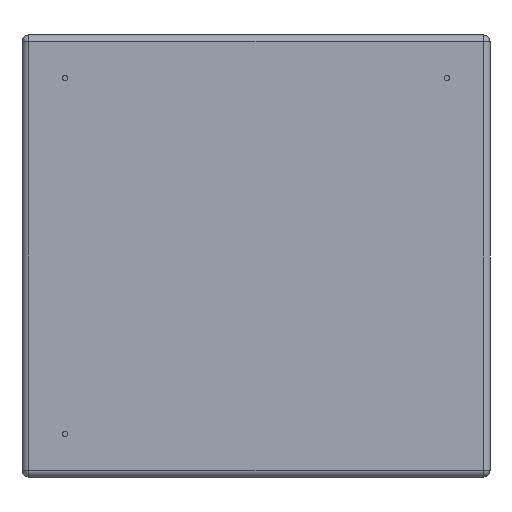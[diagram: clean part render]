
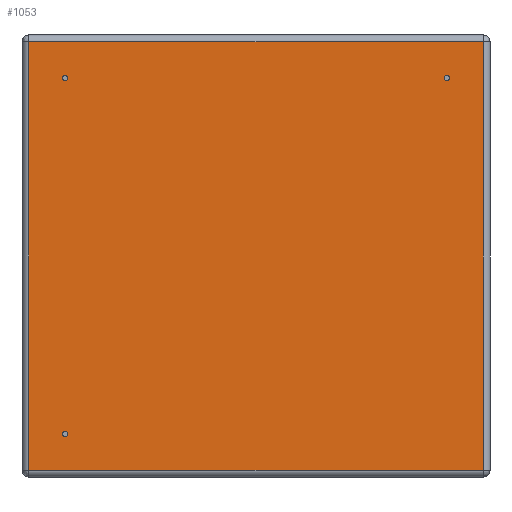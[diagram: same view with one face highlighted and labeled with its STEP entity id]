
A CAD part, left-side view. The second image highlights one B-rep face of the part: STEP entity #1053.
In plain terms, the highlighted free-form (B-spline) face has degree [2, 1] with [3, 2] control points.
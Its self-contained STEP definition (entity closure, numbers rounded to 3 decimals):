
#16=FACE_BOUND('',#1395,.T.);
#17=FACE_BOUND('',#1396,.T.);
#18=FACE_BOUND('',#1397,.T.);
#71=(
BOUNDED_SURFACE()
B_SPLINE_SURFACE(2,1,((#5923,#5924),(#5925,#5926),(#5927,#5928)),
 .UNSPECIFIED.,.F.,.F.,.F.)
B_SPLINE_SURFACE_WITH_KNOTS((3,3),(2,2),(-808.199,-410.899),
(0.,434.),.UNSPECIFIED.)
GEOMETRIC_REPRESENTATION_ITEM()
RATIONAL_B_SPLINE_SURFACE(((1.,1.),(1.,1.),(1.,1.)))
REPRESENTATION_ITEM('')
SURFACE()
);
#312=(
BOUNDED_CURVE()
B_SPLINE_CURVE(1,(#5936,#5937),.UNSPECIFIED.,.F.,.F.)
B_SPLINE_CURVE_WITH_KNOTS((2,2),(6.3,427.7),
 .UNSPECIFIED.)
CURVE()
GEOMETRIC_REPRESENTATION_ITEM()
RATIONAL_B_SPLINE_CURVE((1.,1.))
REPRESENTATION_ITEM('')
);
#313=(
BOUNDED_CURVE()
B_SPLINE_CURVE(1,(#5938,#5939),.UNSPECIFIED.,.F.,.F.)
B_SPLINE_CURVE_WITH_KNOTS((2,2),(6.3,427.7),.UNSPECIFIED.)
CURVE()
GEOMETRIC_REPRESENTATION_ITEM()
RATIONAL_B_SPLINE_CURVE((1.,1.))
REPRESENTATION_ITEM('')
);
#314=(
BOUNDED_CURVE()
B_SPLINE_CURVE(1,(#5940,#5941),.UNSPECIFIED.,.F.,.F.)
B_SPLINE_CURVE_WITH_KNOTS((2,2),(0.,397.3),
 .UNSPECIFIED.)
CURVE()
GEOMETRIC_REPRESENTATION_ITEM()
RATIONAL_B_SPLINE_CURVE((1.,1.))
REPRESENTATION_ITEM('')
);
#315=(
BOUNDED_CURVE()
B_SPLINE_CURVE(1,(#5942,#5943),.UNSPECIFIED.,.F.,.F.)
B_SPLINE_CURVE_WITH_KNOTS((2,2),(0.,397.3),
 .UNSPECIFIED.)
CURVE()
GEOMETRIC_REPRESENTATION_ITEM()
RATIONAL_B_SPLINE_CURVE((1.,1.))
REPRESENTATION_ITEM('')
);
#316=(
BOUNDED_CURVE()
B_SPLINE_CURVE(2,(#5944,#5945,#5946,#5947,#5948,#5949,#5950,#5951,#5952),
 .UNSPECIFIED.,.T.,.F.)
B_SPLINE_CURVE_WITH_KNOTS((3,2,2,2,3),(0.,3.927,7.854,
11.781,15.708),.UNSPECIFIED.)
CURVE()
GEOMETRIC_REPRESENTATION_ITEM()
RATIONAL_B_SPLINE_CURVE((1.,0.707,1.,0.707,1.,0.707,
1.,0.707,1.))
REPRESENTATION_ITEM('')
);
#317=(
BOUNDED_CURVE()
B_SPLINE_CURVE(2,(#5953,#5954,#5955,#5956,#5957,#5958,#5959,#5960,#5961),
 .UNSPECIFIED.,.T.,.F.)
B_SPLINE_CURVE_WITH_KNOTS((3,2,2,2,3),(0.,3.927,7.854,
11.781,15.708),.UNSPECIFIED.)
CURVE()
GEOMETRIC_REPRESENTATION_ITEM()
RATIONAL_B_SPLINE_CURVE((1.,0.707,1.,0.707,1.,0.707,
1.,0.707,1.))
REPRESENTATION_ITEM('')
);
#318=(
BOUNDED_CURVE()
B_SPLINE_CURVE(2,(#5962,#5963,#5964,#5965,#5966,#5967,#5968,#5969,#5970),
 .UNSPECIFIED.,.T.,.F.)
B_SPLINE_CURVE_WITH_KNOTS((3,2,2,2,3),(0.,3.927,7.854,
11.781,15.708),.UNSPECIFIED.)
CURVE()
GEOMETRIC_REPRESENTATION_ITEM()
RATIONAL_B_SPLINE_CURVE((1.,0.707,1.,0.707,1.,0.707,
1.,0.707,1.))
REPRESENTATION_ITEM('')
);
#1053=ADVANCED_FACE('',(#1221,#16,#17,#18),#71,.T.);
#1221=FACE_OUTER_BOUND('',#1394,.T.);
#1394=EDGE_LOOP('',(#1754,#1755,#1756,#1757));
#1395=EDGE_LOOP('',(#1758));
#1396=EDGE_LOOP('',(#1759));
#1397=EDGE_LOOP('',(#1760));
#1754=ORIENTED_EDGE('',*,*,#2545,.F.);
#1755=ORIENTED_EDGE('',*,*,#2547,.T.);
#1756=ORIENTED_EDGE('',*,*,#2546,.T.);
#1757=ORIENTED_EDGE('',*,*,#2548,.F.);
#1758=ORIENTED_EDGE('',*,*,#2549,.T.);
#1759=ORIENTED_EDGE('',*,*,#2550,.T.);
#1760=ORIENTED_EDGE('',*,*,#2551,.T.);
#2545=EDGE_CURVE('',#3723,#3725,#312,.T.);
#2546=EDGE_CURVE('',#3724,#3726,#313,.T.);
#2547=EDGE_CURVE('',#3723,#3724,#314,.T.);
#2548=EDGE_CURVE('',#3725,#3726,#315,.T.);
#2549=EDGE_CURVE('',#3727,#3727,#316,.T.);
#2550=EDGE_CURVE('',#3728,#3728,#317,.T.);
#2551=EDGE_CURVE('',#3729,#3729,#318,.T.);
#3723=VERTEX_POINT('',#5929);
#3724=VERTEX_POINT('',#5930);
#3725=VERTEX_POINT('',#5931);
#3726=VERTEX_POINT('',#5932);
#3727=VERTEX_POINT('',#5933);
#3728=VERTEX_POINT('',#5934);
#3729=VERTEX_POINT('',#5935);
#5923=CARTESIAN_POINT('',(-262.5,-216.999,-198.65));
#5924=CARTESIAN_POINT('',(-262.5,217.001,-198.65));
#5925=CARTESIAN_POINT('',(-262.5,-216.999,0.));
#5926=CARTESIAN_POINT('',(-262.5,217.001,0.));
#5927=CARTESIAN_POINT('',(-262.5,-216.999,198.65));
#5928=CARTESIAN_POINT('',(-262.5,217.001,198.65));
#5929=CARTESIAN_POINT('',(-262.5,-210.699,-198.65));
#5930=CARTESIAN_POINT('',(-262.5,-210.699,198.65));
#5931=CARTESIAN_POINT('',(-262.5,210.701,-198.65));
#5932=CARTESIAN_POINT('',(-262.5,210.701,198.65));
#5933=CARTESIAN_POINT('',(-262.5,-174.497,164.997));
#5934=CARTESIAN_POINT('',(-262.5,179.503,164.997));
#5935=CARTESIAN_POINT('',(-262.5,179.503,-164.997));
#5936=CARTESIAN_POINT('',(-262.5,-210.699,-198.65));
#5937=CARTESIAN_POINT('',(-262.5,210.701,-198.65));
#5938=CARTESIAN_POINT('',(-262.5,-210.699,198.65));
#5939=CARTESIAN_POINT('',(-262.5,210.701,198.65));
#5940=CARTESIAN_POINT('',(-262.5,-210.699,-198.65));
#5941=CARTESIAN_POINT('',(-262.5,-210.699,198.65));
#5942=CARTESIAN_POINT('',(-262.5,210.701,-198.65));
#5943=CARTESIAN_POINT('',(-262.5,210.701,198.65));
#5944=CARTESIAN_POINT('',(-262.5,-174.497,164.997));
#5945=CARTESIAN_POINT('',(-262.5,-174.497,167.497));
#5946=CARTESIAN_POINT('',(-262.5,-176.997,167.497));
#5947=CARTESIAN_POINT('',(-262.5,-179.497,167.497));
#5948=CARTESIAN_POINT('',(-262.5,-179.497,164.997));
#5949=CARTESIAN_POINT('',(-262.5,-179.497,162.497));
#5950=CARTESIAN_POINT('',(-262.5,-176.997,162.497));
#5951=CARTESIAN_POINT('',(-262.5,-174.497,162.497));
#5952=CARTESIAN_POINT('',(-262.5,-174.497,164.997));
#5953=CARTESIAN_POINT('',(-262.5,179.503,164.997));
#5954=CARTESIAN_POINT('',(-262.5,179.503,167.497));
#5955=CARTESIAN_POINT('',(-262.5,177.003,167.497));
#5956=CARTESIAN_POINT('',(-262.5,174.503,167.497));
#5957=CARTESIAN_POINT('',(-262.5,174.503,164.997));
#5958=CARTESIAN_POINT('',(-262.5,174.503,162.497));
#5959=CARTESIAN_POINT('',(-262.5,177.003,162.497));
#5960=CARTESIAN_POINT('',(-262.5,179.503,162.497));
#5961=CARTESIAN_POINT('',(-262.5,179.503,164.997));
#5962=CARTESIAN_POINT('',(-262.5,179.503,-164.997));
#5963=CARTESIAN_POINT('',(-262.5,179.503,-162.497));
#5964=CARTESIAN_POINT('',(-262.5,177.003,-162.497));
#5965=CARTESIAN_POINT('',(-262.5,174.503,-162.497));
#5966=CARTESIAN_POINT('',(-262.5,174.503,-164.997));
#5967=CARTESIAN_POINT('',(-262.5,174.503,-167.497));
#5968=CARTESIAN_POINT('',(-262.5,177.003,-167.497));
#5969=CARTESIAN_POINT('',(-262.5,179.503,-167.497));
#5970=CARTESIAN_POINT('',(-262.5,179.503,-164.997));
